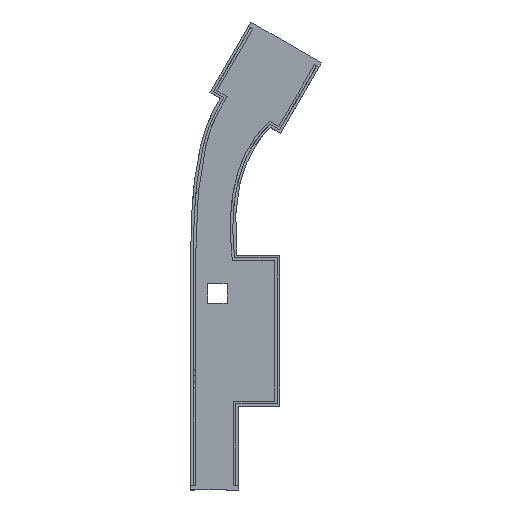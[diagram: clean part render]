
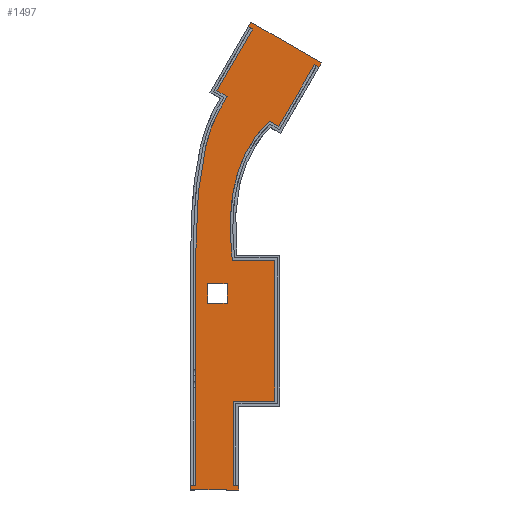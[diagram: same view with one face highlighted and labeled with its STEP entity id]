
A CAD part, left-side view. The second image highlights one B-rep face of the part: STEP entity #1497.
In plain terms, the highlighted planar face has unit normal (-1, 0, 0).
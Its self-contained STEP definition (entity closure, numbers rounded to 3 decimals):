
#87=FACE_BOUND('',#197,.T.);
#93=B_SPLINE_CURVE_WITH_KNOTS('',3,(#2120,#2121,#2122,#2123,#2124,#2125,
#2126),.UNSPECIFIED.,.F.,.F.,(4,3,4),(-1.,-0.695,0.),
 .UNSPECIFIED.);
#94=B_SPLINE_CURVE_WITH_KNOTS('',3,(#2148,#2149,#2150,#2151,#2152,#2153,
#2154,#2155,#2156,#2157,#2158,#2159,#2160,#2161,#2162,#2163,#2164,#2165,
#2166),.UNSPECIFIED.,.F.,.F.,(4,3,3,3,3,3,4),(-1.026,-1.014,
-1.,-0.62,0.,0.017,0.033),
 .UNSPECIFIED.);
#114=FACE_OUTER_BOUND('',#196,.T.);
#196=EDGE_LOOP('',(#995,#996,#997,#998,#999,#1000,#1001,#1002,#1003,#1004,
#1005,#1006,#1007,#1008,#1009,#1010,#1011,#1012,#1013,#1014,#1015,#1016,
#1017));
#197=EDGE_LOOP('',(#1018,#1019,#1020,#1021));
#284=LINE('',#2096,#450);
#287=LINE('',#2102,#453);
#288=LINE('',#2104,#454);
#289=LINE('',#2106,#455);
#290=LINE('',#2108,#456);
#291=LINE('',#2110,#457);
#292=LINE('',#2112,#458);
#293=LINE('',#2114,#459);
#294=LINE('',#2116,#460);
#295=LINE('',#2118,#461);
#296=LINE('',#2128,#462);
#297=LINE('',#2130,#463);
#298=LINE('',#2132,#464);
#299=LINE('',#2134,#465);
#300=LINE('',#2136,#466);
#301=LINE('',#2138,#467);
#302=LINE('',#2140,#468);
#303=LINE('',#2142,#469);
#304=LINE('',#2144,#470);
#305=LINE('',#2146,#471);
#306=LINE('',#2167,#472);
#307=LINE('',#2170,#473);
#308=LINE('',#2172,#474);
#309=LINE('',#2174,#475);
#310=LINE('',#2175,#476);
#450=VECTOR('',#1699,10.);
#453=VECTOR('',#1704,10.);
#454=VECTOR('',#1705,10.);
#455=VECTOR('',#1706,10.);
#456=VECTOR('',#1707,10.);
#457=VECTOR('',#1708,10.);
#458=VECTOR('',#1709,10.);
#459=VECTOR('',#1710,10.);
#460=VECTOR('',#1711,10.);
#461=VECTOR('',#1712,10.);
#462=VECTOR('',#1713,10.);
#463=VECTOR('',#1714,10.);
#464=VECTOR('',#1715,10.);
#465=VECTOR('',#1716,10.);
#466=VECTOR('',#1717,10.);
#467=VECTOR('',#1718,10.);
#468=VECTOR('',#1719,10.);
#469=VECTOR('',#1720,10.);
#470=VECTOR('',#1721,10.);
#471=VECTOR('',#1722,10.);
#472=VECTOR('',#1723,10.);
#473=VECTOR('',#1724,10.);
#474=VECTOR('',#1725,10.);
#475=VECTOR('',#1726,10.);
#476=VECTOR('',#1727,10.);
#615=VERTEX_POINT('',#2092);
#617=VERTEX_POINT('',#2095);
#619=VERTEX_POINT('',#2101);
#620=VERTEX_POINT('',#2103);
#621=VERTEX_POINT('',#2105);
#622=VERTEX_POINT('',#2107);
#623=VERTEX_POINT('',#2109);
#624=VERTEX_POINT('',#2111);
#625=VERTEX_POINT('',#2113);
#626=VERTEX_POINT('',#2115);
#627=VERTEX_POINT('',#2117);
#628=VERTEX_POINT('',#2119);
#629=VERTEX_POINT('',#2127);
#630=VERTEX_POINT('',#2129);
#631=VERTEX_POINT('',#2131);
#632=VERTEX_POINT('',#2133);
#633=VERTEX_POINT('',#2135);
#634=VERTEX_POINT('',#2137);
#635=VERTEX_POINT('',#2139);
#636=VERTEX_POINT('',#2141);
#637=VERTEX_POINT('',#2143);
#638=VERTEX_POINT('',#2145);
#639=VERTEX_POINT('',#2147);
#640=VERTEX_POINT('',#2168);
#641=VERTEX_POINT('',#2169);
#642=VERTEX_POINT('',#2171);
#643=VERTEX_POINT('',#2173);
#766=EDGE_CURVE('',#617,#615,#284,.T.);
#769=EDGE_CURVE('',#619,#615,#287,.T.);
#770=EDGE_CURVE('',#620,#619,#288,.T.);
#771=EDGE_CURVE('',#621,#620,#289,.T.);
#772=EDGE_CURVE('',#622,#621,#290,.T.);
#773=EDGE_CURVE('',#622,#623,#291,.T.);
#774=EDGE_CURVE('',#623,#624,#292,.T.);
#775=EDGE_CURVE('',#624,#625,#293,.T.);
#776=EDGE_CURVE('',#625,#626,#294,.T.);
#777=EDGE_CURVE('',#626,#627,#295,.T.);
#778=EDGE_CURVE('',#627,#628,#93,.T.);
#779=EDGE_CURVE('',#628,#629,#296,.T.);
#780=EDGE_CURVE('',#629,#630,#297,.T.);
#781=EDGE_CURVE('',#630,#631,#298,.T.);
#782=EDGE_CURVE('',#632,#631,#299,.T.);
#783=EDGE_CURVE('',#632,#633,#300,.T.);
#784=EDGE_CURVE('',#633,#634,#301,.T.);
#785=EDGE_CURVE('',#634,#635,#302,.T.);
#786=EDGE_CURVE('',#635,#636,#303,.T.);
#787=EDGE_CURVE('',#636,#637,#304,.T.);
#788=EDGE_CURVE('',#637,#638,#305,.T.);
#789=EDGE_CURVE('',#638,#639,#94,.T.);
#790=EDGE_CURVE('',#639,#617,#306,.T.);
#791=EDGE_CURVE('',#640,#641,#307,.T.);
#792=EDGE_CURVE('',#641,#642,#308,.T.);
#793=EDGE_CURVE('',#642,#643,#309,.T.);
#794=EDGE_CURVE('',#643,#640,#310,.T.);
#995=ORIENTED_EDGE('',*,*,#769,.F.);
#996=ORIENTED_EDGE('',*,*,#770,.F.);
#997=ORIENTED_EDGE('',*,*,#771,.F.);
#998=ORIENTED_EDGE('',*,*,#772,.F.);
#999=ORIENTED_EDGE('',*,*,#773,.T.);
#1000=ORIENTED_EDGE('',*,*,#774,.T.);
#1001=ORIENTED_EDGE('',*,*,#775,.T.);
#1002=ORIENTED_EDGE('',*,*,#776,.T.);
#1003=ORIENTED_EDGE('',*,*,#777,.T.);
#1004=ORIENTED_EDGE('',*,*,#778,.T.);
#1005=ORIENTED_EDGE('',*,*,#779,.T.);
#1006=ORIENTED_EDGE('',*,*,#780,.T.);
#1007=ORIENTED_EDGE('',*,*,#781,.T.);
#1008=ORIENTED_EDGE('',*,*,#782,.F.);
#1009=ORIENTED_EDGE('',*,*,#783,.T.);
#1010=ORIENTED_EDGE('',*,*,#784,.T.);
#1011=ORIENTED_EDGE('',*,*,#785,.T.);
#1012=ORIENTED_EDGE('',*,*,#786,.T.);
#1013=ORIENTED_EDGE('',*,*,#787,.T.);
#1014=ORIENTED_EDGE('',*,*,#788,.T.);
#1015=ORIENTED_EDGE('',*,*,#789,.T.);
#1016=ORIENTED_EDGE('',*,*,#790,.T.);
#1017=ORIENTED_EDGE('',*,*,#766,.T.);
#1018=ORIENTED_EDGE('',*,*,#791,.T.);
#1019=ORIENTED_EDGE('',*,*,#792,.T.);
#1020=ORIENTED_EDGE('',*,*,#793,.T.);
#1021=ORIENTED_EDGE('',*,*,#794,.T.);
#1444=PLANE('',#1581);
#1497=ADVANCED_FACE('',(#114,#87),#1444,.T.);
#1581=AXIS2_PLACEMENT_3D('',#2100,#1702,#1703);
#1699=DIRECTION('',(0.,-0.502,0.865));
#1702=DIRECTION('center_axis',(-1.,0.,0.));
#1703=DIRECTION('ref_axis',(0.,-1.,0.));
#1704=DIRECTION('',(0.,0.865,0.502));
#1705=DIRECTION('',(0.,0.502,-0.865));
#1706=DIRECTION('',(0.,-0.865,-0.502));
#1707=DIRECTION('',(0.,-0.502,0.865));
#1708=DIRECTION('',(0.,-0.865,-0.502));
#1709=DIRECTION('',(0.,-0.834,-0.551));
#1710=DIRECTION('',(0.,0.502,-0.865));
#1711=DIRECTION('',(0.,-0.865,-0.502));
#1712=DIRECTION('',(0.,0.502,-0.865));
#1713=DIRECTION('',(0.,0.,-1.));
#1714=DIRECTION('',(0.,1.,0.));
#1715=DIRECTION('',(0.,0.,-1.));
#1716=DIRECTION('',(0.,1.,0.));
#1717=DIRECTION('',(0.,0.,1.));
#1718=DIRECTION('',(0.,1.,0.));
#1719=DIRECTION('',(0.,0.,1.));
#1720=DIRECTION('',(0.,-1.,0.));
#1721=DIRECTION('',(0.,0.,1.));
#1722=DIRECTION('',(0.,1.,0.));
#1723=DIRECTION('',(0.,-0.865,-0.502));
#1724=DIRECTION('',(0.,1.,0.));
#1725=DIRECTION('',(0.,0.,1.));
#1726=DIRECTION('',(0.,-1.,0.));
#1727=DIRECTION('',(0.,0.,-1.));
#2092=CARTESIAN_POINT('',(78.,-45.162,181.445));
#2095=CARTESIAN_POINT('',(78.,-30.199,155.673));
#2096=CARTESIAN_POINT('',(78.,-24.627,146.077));
#2100=CARTESIAN_POINT('Origin',(78.,-20.379,101.254));
#2101=CARTESIAN_POINT('',(78.,-46.978,180.39));
#2102=CARTESIAN_POINT('',(78.,-46.027,180.943));
#2103=CARTESIAN_POINT('',(78.,-48.032,182.206));
#2104=CARTESIAN_POINT('',(78.,-48.032,182.206));
#2105=CARTESIAN_POINT('',(78.,-18.629,199.278));
#2106=CARTESIAN_POINT('',(78.,-18.629,199.278));
#2107=CARTESIAN_POINT('',(78.,-17.574,197.462));
#2108=CARTESIAN_POINT('',(78.,-1.557,169.874));
#2109=CARTESIAN_POINT('',(78.,-18.526,196.909));
#2110=CARTESIAN_POINT('',(78.,-39.987,184.449));
#2111=CARTESIAN_POINT('',(78.,-19.362,196.357));
#2112=CARTESIAN_POINT('',(78.,-53.524,173.8));
#2113=CARTESIAN_POINT('',(78.,-4.428,170.636));
#2114=CARTESIAN_POINT('',(78.,8.625,148.154));
#2115=CARTESIAN_POINT('',(78.,-8.752,168.125));
#2116=CARTESIAN_POINT('',(78.,-27.618,157.172));
#2117=CARTESIAN_POINT('',(78.,-5.217,162.037));
#2118=CARTESIAN_POINT('',(78.,6.069,142.599));
#2119=CARTESIAN_POINT('',(78.,4.4,102.));
#2120=CARTESIAN_POINT('Ctrl Pts',(78.,-5.217,162.037));
#2121=CARTESIAN_POINT('Ctrl Pts',(78.,-3.321,158.772));
#2122=CARTESIAN_POINT('Ctrl Pts',(78.,-1.667,154.625));
#2123=CARTESIAN_POINT('Ctrl Pts',(78.,-0.303,149.605));
#2124=CARTESIAN_POINT('Ctrl Pts',(78.,2.801,138.19));
#2125=CARTESIAN_POINT('Ctrl Pts',(78.,4.4,122.282));
#2126=CARTESIAN_POINT('Ctrl Pts',(78.,4.4,102.));
#2127=CARTESIAN_POINT('',(78.,4.4,5.893));
#2128=CARTESIAN_POINT('',(78.,4.4,53.677));
#2129=CARTESIAN_POINT('',(78.,6.5,5.893));
#2130=CARTESIAN_POINT('',(78.,-11.404,5.893));
#2131=CARTESIAN_POINT('',(78.,6.5,4.));
#2132=CARTESIAN_POINT('',(78.,6.5,102.));
#2133=CARTESIAN_POINT('',(78.,-13.5,4.));
#2134=CARTESIAN_POINT('',(78.,-13.5,4.));
#2135=CARTESIAN_POINT('',(78.,-13.5,5.893));
#2136=CARTESIAN_POINT('',(78.,-13.5,4.));
#2137=CARTESIAN_POINT('',(78.,-11.4,5.893));
#2138=CARTESIAN_POINT('',(78.,-16.389,5.893));
#2139=CARTESIAN_POINT('',(78.,-11.4,41.1));
#2140=CARTESIAN_POINT('',(78.,-11.4,71.177));
#2141=CARTESIAN_POINT('',(78.,-28.679,41.1));
#2142=CARTESIAN_POINT('',(78.,-24.529,41.1));
#2143=CARTESIAN_POINT('',(78.,-28.679,99.9));
#2144=CARTESIAN_POINT('',(78.,-28.679,100.577));
#2145=CARTESIAN_POINT('',(78.,-10.882,99.9));
#2146=CARTESIAN_POINT('',(78.,-15.63,99.9));
#2147=CARTESIAN_POINT('',(78.,-26.291,157.943));
#2148=CARTESIAN_POINT('Ctrl Pts',(78.,-10.882,99.9));
#2149=CARTESIAN_POINT('Ctrl Pts',(78.,-10.852,100.2));
#2150=CARTESIAN_POINT('Ctrl Pts',(78.,-10.821,100.499));
#2151=CARTESIAN_POINT('Ctrl Pts',(78.,-10.791,100.799));
#2152=CARTESIAN_POINT('Ctrl Pts',(78.,-10.757,101.128));
#2153=CARTESIAN_POINT('Ctrl Pts',(78.,-10.724,101.458));
#2154=CARTESIAN_POINT('Ctrl Pts',(78.,-10.69,101.787));
#2155=CARTESIAN_POINT('Ctrl Pts',(78.,-9.754,110.992));
#2156=CARTESIAN_POINT('Ctrl Pts',(78.,-9.846,119.354));
#2157=CARTESIAN_POINT('Ctrl Pts',(78.,-10.995,126.878));
#2158=CARTESIAN_POINT('Ctrl Pts',(78.,-12.867,139.132));
#2159=CARTESIAN_POINT('Ctrl Pts',(78.,-17.58,149.189));
#2160=CARTESIAN_POINT('Ctrl Pts',(78.,-25.148,156.795));
#2161=CARTESIAN_POINT('Ctrl Pts',(78.,-25.348,156.995));
#2162=CARTESIAN_POINT('Ctrl Pts',(78.,-25.547,157.195));
#2163=CARTESIAN_POINT('Ctrl Pts',(78.,-25.747,157.396));
#2164=CARTESIAN_POINT('Ctrl Pts',(78.,-25.928,157.578));
#2165=CARTESIAN_POINT('Ctrl Pts',(78.,-26.109,157.76));
#2166=CARTESIAN_POINT('Ctrl Pts',(78.,-26.291,157.943));
#2167=CARTESIAN_POINT('',(78.,-38.342,150.946));
#2168=CARTESIAN_POINT('',(78.,-8.681,82.));
#2169=CARTESIAN_POINT('',(78.,-0.681,82.));
#2170=CARTESIAN_POINT('',(78.,-10.53,82.));
#2171=CARTESIAN_POINT('',(78.,-0.681,90.));
#2172=CARTESIAN_POINT('',(78.,-0.681,95.627));
#2173=CARTESIAN_POINT('',(78.,-8.681,90.));
#2174=CARTESIAN_POINT('',(78.,-14.53,90.));
#2175=CARTESIAN_POINT('',(78.,-8.681,91.627));
